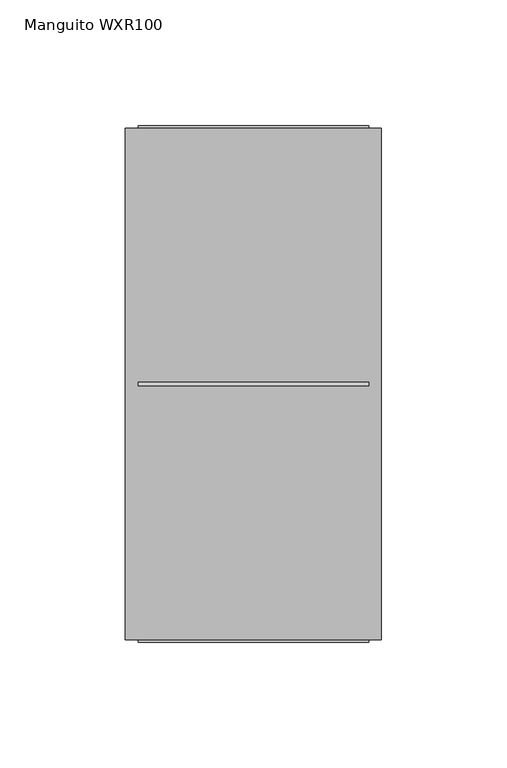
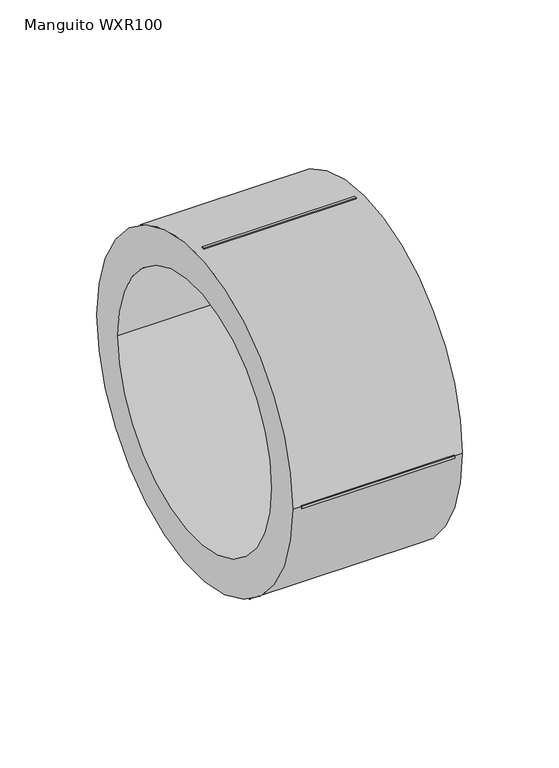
"""IFC4 building model written with IfcOpenShell, lengths in millimetres: pipe fitting geometry, EGB_VASEN_ PPR_Manguito WXR100 : Manguito WXR100."""

from ifc_helpers import new_model, si_unit, point, frame, origin, origin_2d, place, context, project, spatial, polyline, circle_curve, trimmed, segment, composite_curve, outline, extrude, source, transform, mapped, element, save


def manguito_wxr100_969112db(model_context):
    return source(origin(), model_context, "Body", "SweptSolid", [
        extrude(outline(composite_curve([segment(trimmed(circle_curve(origin_2d(), 102.0), [point((-102.0, 0.0))], [point((102.0, 0.0))], False, "CARTESIAN"), True, "CONTINUOUS"), segment(trimmed(circle_curve(origin_2d(), 102.0), [point((102.0, 0.0))], [point((-102.0, 0.0))], False, "CARTESIAN"), True, "CONTINUOUS")], self_intersect=False), holes=[composite_curve([segment(trimmed(circle_curve(origin_2d(), 80.0), [point((-80.0, 0.0))], [point((80.0, 0.0))], True, "CARTESIAN"), True, "CONTINUOUS"), segment(trimmed(circle_curve(origin_2d(), 80.0), [point((80.0, 0.0))], [point((-80.0, 0.0))], True, "CARTESIAN"), True, "CONTINUOUS")], self_intersect=False)]), frame((-51.0, 0.0, 0.0), z_axis=(1.0, 0.0, 0.0), x_axis=(0.0, 1.0, 0.0)), (0.0, 0.0, 1.0), 102.0),
        extrude(outline(polyline([(45.9, 0.75), (45.9, -0.75), (-45.9, -0.75), (-45.9, 0.75), (45.9, 0.75)])), frame((0.0, 0.0, 101.0), z_axis=(0.0, 0.0, 1.0), x_axis=(1.0, 0.0, 0.0)), (0.0, 0.0, 1.0), 2.0),
        extrude(outline(polyline([(45.9, 0.75), (45.9, -0.75), (-45.9, -0.75), (-45.9, 0.75), (45.9, 0.75)])), frame((0.0, 0.0, -103.0), z_axis=(0.0, 0.0, 1.0), x_axis=(1.0, 0.0, 0.0)), (0.0, 0.0, 1.0), 2.0),
        extrude(outline(polyline([(45.9, 103.0), (45.9, 101.0), (-45.9, 101.0), (-45.9, 103.0), (45.9, 103.0)])), frame((0.0, 0.0, -0.75), z_axis=(0.0, 0.0, 1.0), x_axis=(1.0, 0.0, 0.0)), (0.0, 0.0, 1.0), 1.5),
        extrude(outline(polyline([(45.9, -101.0), (45.9, -103.0), (-45.9, -103.0), (-45.9, -101.0), (45.9, -101.0)])), frame((0.0, 0.0, -0.75), z_axis=(0.0, 0.0, 1.0), x_axis=(1.0, 0.0, 0.0)), (0.0, 0.0, 1.0), 1.5),
    ])


if __name__ == "__main__":
    model = new_model("IFC4")
    model_context = context("Model", 3, world=origin())
    ifc_project = project(units=[si_unit("LENGTHUNIT", "METRE", prefix="MILLI")], contexts=[model_context])
    site = spatial("IfcSite", under=ifc_project)
    building = spatial("IfcBuilding", under=site)
    placement = place(None, origin())
    manguito_wxr100_shape = manguito_wxr100_969112db(model_context)
    element("IfcPipeFitting", 1, ObjectType="EGB_VASEN_ PPR_Manguito WXR100 : Manguito WXR100", at=placement, inside=building, context=model_context, shape_type="MappedRepresentation", body=[
        mapped(manguito_wxr100_shape, transform((0.0, 0.0, 0.0), x_axis=(1.0, 0.0, 0.0), y_axis=(0.0, 1.0, 0.0), z_axis=(0.0, 0.0, 1.0))),
    ])
    save(model, "model.ifc")
